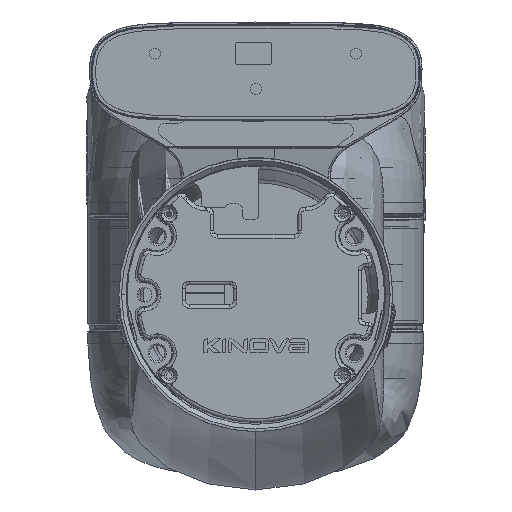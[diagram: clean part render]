
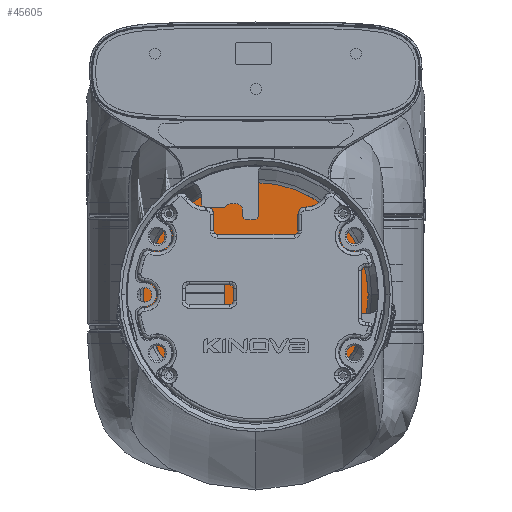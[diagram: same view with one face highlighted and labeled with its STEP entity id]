
A CAD part, top view. The second image highlights one B-rep face of the part: STEP entity #45605.
In plain terms, the highlighted planar face has unit normal (0, 0, 1) as drawn and (0, -1, 0) by its records, which use the part's own axes.
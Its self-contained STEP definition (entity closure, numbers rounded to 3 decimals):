
#11295 = VERTEX_POINT ( 'NONE', #242411 ) ;
#14644 = DIRECTION ( 'NONE',  ( 0., 1., 0. ) ) ;
#14678 = EDGE_LOOP ( 'NONE', ( #230518, #143550 ) ) ;
#26689 = DIRECTION ( 'NONE',  ( 0., 1., 0. ) ) ;
#45605 = ADVANCED_FACE ( 'NONE', ( #148411 ), #222483, .F. ) ;
#52725 = CARTESIAN_POINT ( 'NONE',  ( 0., 0., 0. ) ) ;
#53590 = DIRECTION ( 'NONE',  ( 0., 0., 1. ) ) ;
#83277 = EDGE_CURVE ( 'NONE', #148236, #11295, #214468, .T. ) ;
#99806 = DIRECTION ( 'NONE',  ( 0., 0., 1. ) ) ;
#128475 = CIRCLE ( 'NONE', #259487, 30.75 ) ;
#128859 = CARTESIAN_POINT ( 'NONE',  ( 0., 0., 0. ) ) ;
#141996 = AXIS2_PLACEMENT_3D ( 'NONE', #202775, #14644, #99806 ) ;
#143550 = ORIENTED_EDGE ( 'NONE', *, *, #83277, .F. ) ;
#148236 = VERTEX_POINT ( 'NONE', #155048 ) ;
#148411 = FACE_OUTER_BOUND ( 'NONE', #14678, .T. ) ;
#155048 = CARTESIAN_POINT ( 'NONE',  ( 0., 0., 30.75 ) ) ;
#173734 = DIRECTION ( 'NONE',  ( 0., 1., 0. ) ) ;
#187017 = DIRECTION ( 'NONE',  ( 0., 0., 1. ) ) ;
#191323 = AXIS2_PLACEMENT_3D ( 'NONE', #128859, #26689, #187017 ) ;
#202775 = CARTESIAN_POINT ( 'NONE',  ( 0., 0., 0. ) ) ;
#208269 = EDGE_CURVE ( 'NONE', #11295, #148236, #128475, .T. ) ;
#214468 = CIRCLE ( 'NONE', #191323, 30.75 ) ;
#222483 = PLANE ( 'NONE',  #141996 ) ;
#230518 = ORIENTED_EDGE ( 'NONE', *, *, #208269, .F. ) ;
#242411 = CARTESIAN_POINT ( 'NONE',  ( 0., 0., -30.75 ) ) ;
#259487 = AXIS2_PLACEMENT_3D ( 'NONE', #52725, #173734, #53590 ) ;
